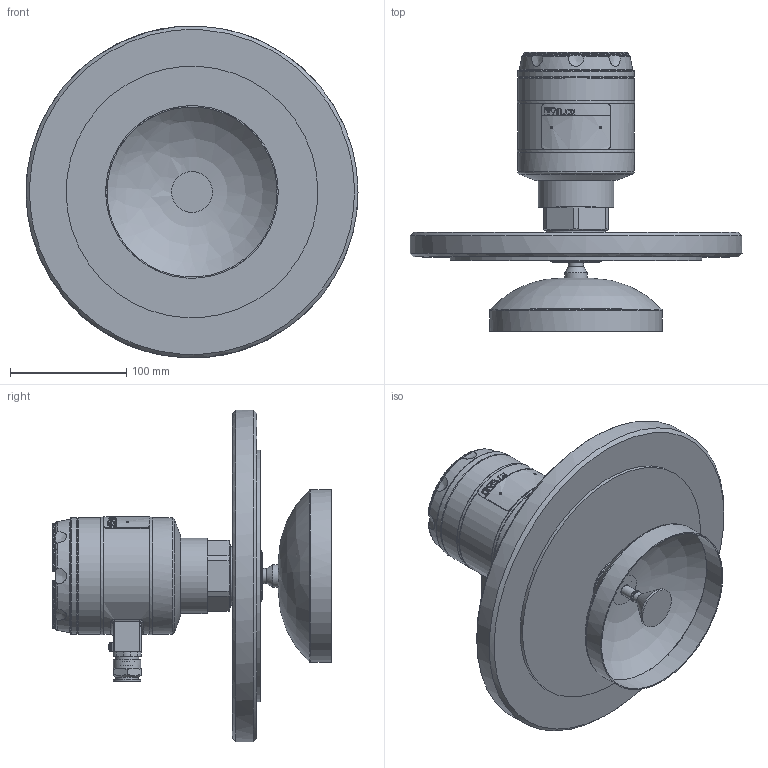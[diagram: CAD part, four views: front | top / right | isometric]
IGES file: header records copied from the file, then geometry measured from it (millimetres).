
Global section: file name: WES_119_Xház,; native system: Autodesk Inventor 2015; preprocessor: unknown; author: aantal; date: 20150713.095544; units: millimetre
Bounding box: 285 x 239.5 x 284.51 mm (x, y, z)
Volume: 2497944.7 mm3; surface area: 299536.8 mm2
Topology: 10 solids, 10 shells, 416 faces, 1038 edges, 678 vertices
Faces by surface type: bspline 416
